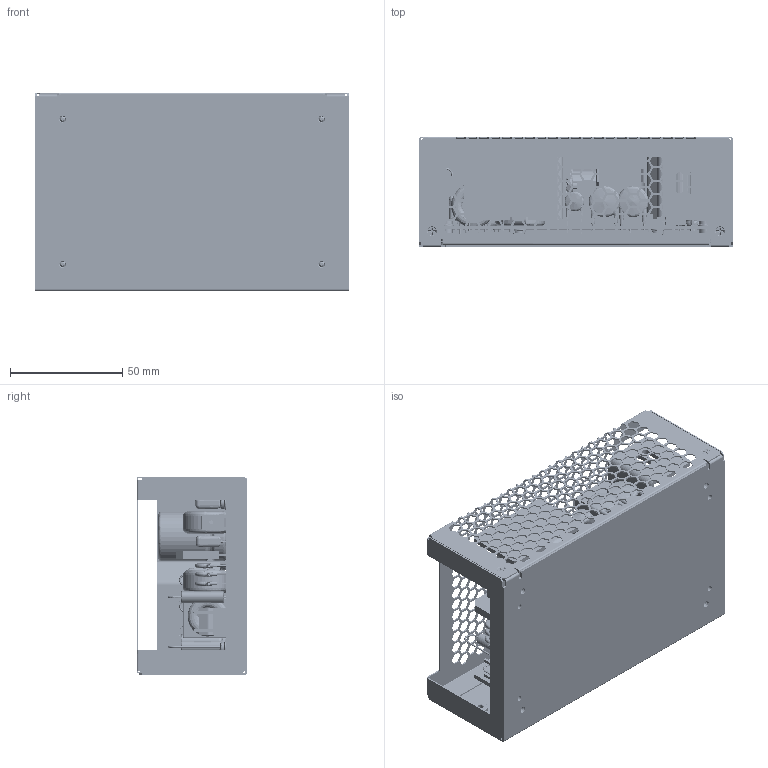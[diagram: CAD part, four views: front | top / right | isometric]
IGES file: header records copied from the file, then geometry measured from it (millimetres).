
Start section: SolidWorks IGES file using analytic representation for surfaces
Global section: file name: G:\SolidWorks\Common\GCS150\SW\10014368\GCS150PSXX WITH COVER IGES.IGS; native system: SolidWorks 2012; preprocessor: SolidWorks 2012; author: KEVYOU; date: 130711.134554; units: inch
Bounding box: 139.7 x 49.17 x 88.47 mm (x, y, z)
Surface area: 175833.3 mm2 (no closed solid volume)
Topology: 0 solids, 0 shells, 7075 faces, 60396 edges, 60320 vertices
Faces by surface type: bspline 5171, revolution 1904
